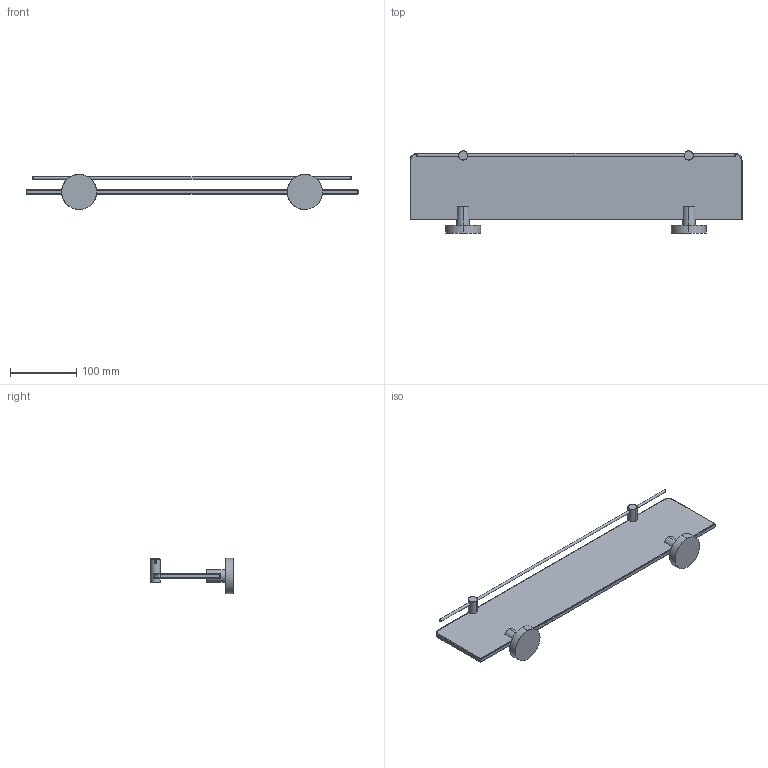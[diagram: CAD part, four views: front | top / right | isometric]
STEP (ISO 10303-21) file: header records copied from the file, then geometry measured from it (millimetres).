
FILE_DESCRIPTION(('THIS FILE CONTAINS SOME STEP INSTANCES'),'1');
FILE_NAME('HAR 035-light.stp','2015-11-17T14:48:07',('UNDEFINED'),('UNDEFINED'),'T-FLEX CAD STEP converter','T-FLEX CAD','');
FILE_SCHEMA(('CONFIG_CONTROL_DESIGN'));
Length unit declared in the file: metre
Products named in the file (4): 3D 鐨飹懤艜_12; har_035
Bounding box: 500 x 124 x 53 mm (x, y, z)
Volume: 426637.1 mm3; surface area: 133174.7 mm2
Topology: 4 solids, 4 shells, 212 faces, 445 edges, 247 vertices
Faces by surface type: plane 106, cone 62, bspline 24, cylinder 20
Entity records: 8525 total; most frequent: CARTESIAN_POINT 4381, ORIENTED_EDGE 890, DIRECTION 744, EDGE_CURVE 445, LINE 282, VECTOR 282, VERTEX_POINT 247, AXIS2_PLACEMENT_3D 231
